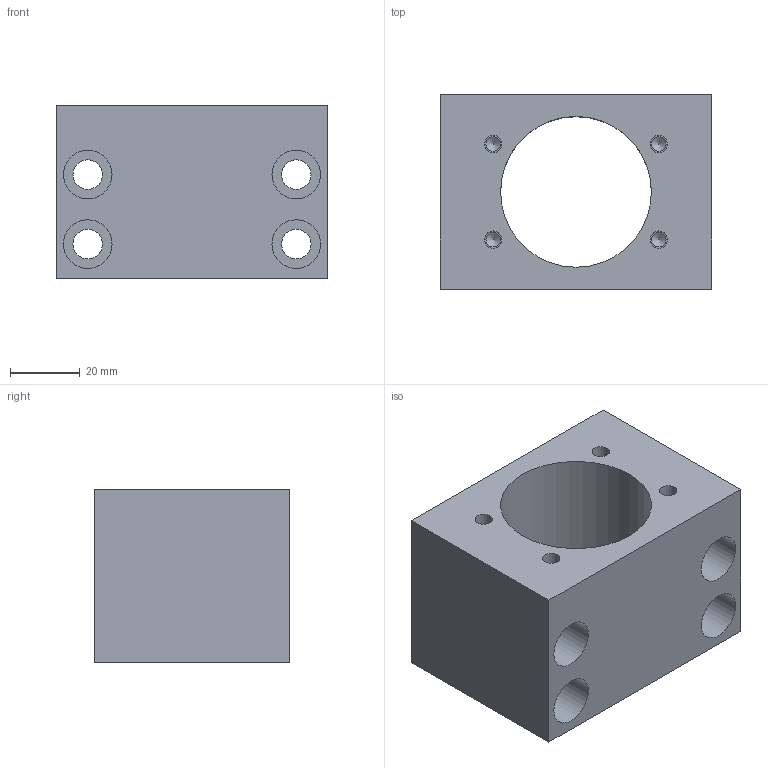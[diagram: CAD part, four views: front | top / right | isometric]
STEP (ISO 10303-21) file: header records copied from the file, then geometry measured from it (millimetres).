
FILE_DESCRIPTION(/* description */ (''),/* implementation_level */ '2;1');
FILE_NAME(/* name */ 'NH25B.stp',/* time_stamp */ '2017-01-05T15:39:04+08:00',/* author */ (''),/* organization */ (''),/* preprocessor_version */ 'ST-DEVELOPER v15',/* originating_system */ 'SIEMENS PLM Software NX 8.5',/* authorisation */ '');
FILE_SCHEMA (('AUTOMOTIVE_DESIGN { 1 0 10303 214 3 1 1 1 }'));
Length unit declared in the file: millimetre
Products named in the file (1): Admi1CF0E4A5a638
Bounding box: 78 x 56 x 50 mm (x, y, z)
Volume: 125603.6 mm3; surface area: 33241.7 mm2
Topology: 1 solids, 1 shells, 43 faces, 92 edges, 63 vertices
Faces by surface type: cylinder 21, plane 18, cone 4
Full cylindrical faces by diameter (mm): 4.2 x4, 5 x4, 8.5 x4, 10 x4, 14 x4, 43.4 x1
Entity records: 1014 total; most frequent: DIRECTION 184, CARTESIAN_POINT 152, ORIENTED_EDGE 108, FACE_BOUND 92, EDGE_LOOP 90, AXIS2_PLACEMENT_3D 86, VERTEX_POINT 54, EDGE_CURVE 54
